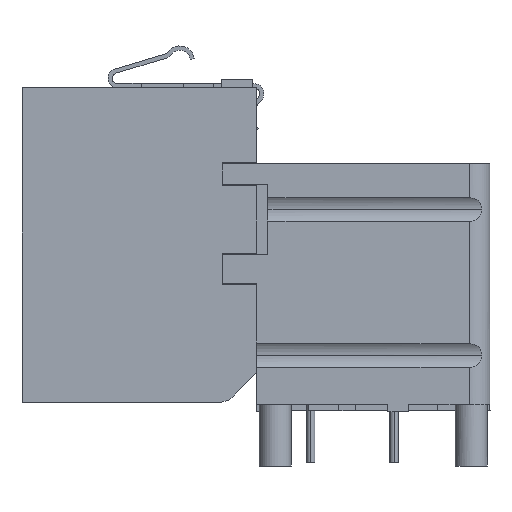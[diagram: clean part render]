
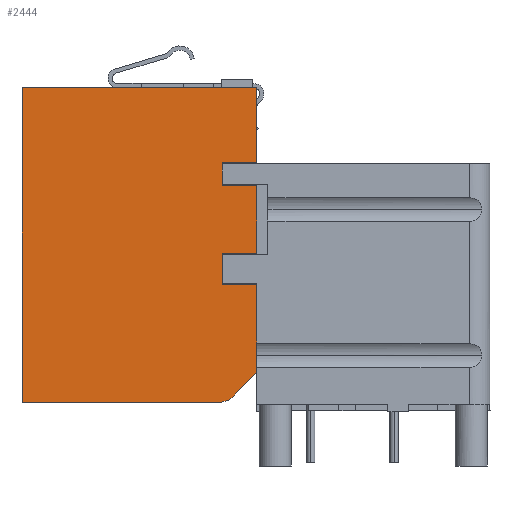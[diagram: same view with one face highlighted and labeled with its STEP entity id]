
A CAD part, front view. The second image highlights one B-rep face of the part: STEP entity #2444.
In plain terms, the highlighted planar face has unit normal (0, -1, 0).
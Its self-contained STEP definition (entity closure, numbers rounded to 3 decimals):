
#2344=AXIS2_PLACEMENT_3D('Plane Axis2P3D',#2341,#2342,#2343) ;
#2383=AXIS2_PLACEMENT_3D('Circle Axis2P3D',#2381,#2382,$) ;
#1366=CARTESIAN_POINT('Vertex',(-9.,-4.,-8.)) ;
#1369=CARTESIAN_POINT('Line Origine',(-9.,-4.,-0.45)) ;
#1373=CARTESIAN_POINT('Vertex',(-9.,-4.,7.1)) ;
#2252=CARTESIAN_POINT('Line Origine',(-3.375,-4.,7.1)) ;
#2256=CARTESIAN_POINT('Vertex',(2.25,-4.,7.1)) ;
#2341=CARTESIAN_POINT('Axis2P3D Location',(0.,-4.,7.1)) ;
#2346=CARTESIAN_POINT('Line Origine',(1.425,-4.,2.4)) ;
#2350=CARTESIAN_POINT('Vertex',(0.6,-4.,2.4)) ;
#2352=CARTESIAN_POINT('Vertex',(2.25,-4.,2.4)) ;
#2355=CARTESIAN_POINT('Line Origine',(0.6,-4.,2.95)) ;
#2359=CARTESIAN_POINT('Vertex',(0.6,-4.,3.5)) ;
#2362=CARTESIAN_POINT('Line Origine',(1.425,-4.,3.5)) ;
#2366=CARTESIAN_POINT('Vertex',(2.25,-4.,3.5)) ;
#2369=CARTESIAN_POINT('Line Origine',(2.25,-4.,5.3)) ;
#2374=CARTESIAN_POINT('Line Origine',(-4.287,-4.,-8.)) ;
#2378=CARTESIAN_POINT('Vertex',(0.425,-4.,-8.)) ;
#2381=CARTESIAN_POINT('Axis2P3D Location',(0.425,-4.,-7.)) ;
#2385=CARTESIAN_POINT('Vertex',(1.145,-4.,-7.694)) ;
#2388=CARTESIAN_POINT('Line Origine',(1.697,-4.,-7.122)) ;
#2392=CARTESIAN_POINT('Vertex',(2.25,-4.,-6.55)) ;
#2395=CARTESIAN_POINT('Line Origine',(2.25,-4.,-4.45)) ;
#2399=CARTESIAN_POINT('Vertex',(2.25,-4.,-2.35)) ;
#2402=CARTESIAN_POINT('Line Origine',(1.425,-4.,-2.35)) ;
#2406=CARTESIAN_POINT('Vertex',(0.6,-4.,-2.35)) ;
#2409=CARTESIAN_POINT('Line Origine',(0.6,-4.,-1.6)) ;
#2413=CARTESIAN_POINT('Vertex',(0.6,-4.,-0.85)) ;
#2416=CARTESIAN_POINT('Line Origine',(1.425,-4.,-0.85)) ;
#2420=CARTESIAN_POINT('Vertex',(2.25,-4.,-0.85)) ;
#2423=CARTESIAN_POINT('Line Origine',(2.25,-4.,0.775)) ;
#1370=DIRECTION('Vector Direction',(0.,0.,1.)) ;
#2253=DIRECTION('Vector Direction',(-1.,0.,0.)) ;
#2342=DIRECTION('Axis2P3D Direction',(0.,-1.,0.)) ;
#2343=DIRECTION('Axis2P3D XDirection',(0.,0.,-1.)) ;
#2347=DIRECTION('Vector Direction',(1.,0.,0.)) ;
#2356=DIRECTION('Vector Direction',(0.,0.,-1.)) ;
#2363=DIRECTION('Vector Direction',(-1.,0.,0.)) ;
#2370=DIRECTION('Vector Direction',(0.,0.,1.)) ;
#2375=DIRECTION('Vector Direction',(1.,0.,0.)) ;
#2382=DIRECTION('Axis2P3D Direction',(0.,-1.,0.)) ;
#2389=DIRECTION('Vector Direction',(-0.695,0.,-0.719)) ;
#2396=DIRECTION('Vector Direction',(0.,0.,1.)) ;
#2403=DIRECTION('Vector Direction',(-1.,0.,0.)) ;
#2410=DIRECTION('Vector Direction',(0.,0.,-1.)) ;
#2417=DIRECTION('Vector Direction',(1.,0.,0.)) ;
#2424=DIRECTION('Vector Direction',(0.,0.,1.)) ;
#1371=VECTOR('Line Direction',#1370,1.) ;
#2254=VECTOR('Line Direction',#2253,1.) ;
#2348=VECTOR('Line Direction',#2347,1.) ;
#2357=VECTOR('Line Direction',#2356,1.) ;
#2364=VECTOR('Line Direction',#2363,1.) ;
#2371=VECTOR('Line Direction',#2370,1.) ;
#2376=VECTOR('Line Direction',#2375,1.) ;
#2390=VECTOR('Line Direction',#2389,1.) ;
#2397=VECTOR('Line Direction',#2396,1.) ;
#2404=VECTOR('Line Direction',#2403,1.) ;
#2411=VECTOR('Line Direction',#2410,1.) ;
#2418=VECTOR('Line Direction',#2417,1.) ;
#2425=VECTOR('Line Direction',#2424,1.) ;
#2429=ORIENTED_EDGE('',*,*,#2354,.F.) ;
#2430=ORIENTED_EDGE('',*,*,#2361,.F.) ;
#2431=ORIENTED_EDGE('',*,*,#2368,.F.) ;
#2432=ORIENTED_EDGE('',*,*,#2373,.T.) ;
#2433=ORIENTED_EDGE('',*,*,#2258,.T.) ;
#2434=ORIENTED_EDGE('',*,*,#1375,.F.) ;
#2435=ORIENTED_EDGE('',*,*,#2380,.T.) ;
#2436=ORIENTED_EDGE('',*,*,#2387,.T.) ;
#2437=ORIENTED_EDGE('',*,*,#2394,.F.) ;
#2438=ORIENTED_EDGE('',*,*,#2401,.T.) ;
#2439=ORIENTED_EDGE('',*,*,#2408,.T.) ;
#2440=ORIENTED_EDGE('',*,*,#2415,.F.) ;
#2441=ORIENTED_EDGE('',*,*,#2422,.T.) ;
#2442=ORIENTED_EDGE('',*,*,#2427,.T.) ;
#2444=ADVANCED_FACE('KEY_C',(#2443),#2345,.T.) ;
#2384=CIRCLE('generated circle',#2383,1.) ;
#1375=EDGE_CURVE('',#1367,#1374,#1372,.T.) ;
#2258=EDGE_CURVE('',#2257,#1374,#2255,.T.) ;
#2354=EDGE_CURVE('',#2351,#2353,#2349,.T.) ;
#2361=EDGE_CURVE('',#2360,#2351,#2358,.T.) ;
#2368=EDGE_CURVE('',#2367,#2360,#2365,.T.) ;
#2373=EDGE_CURVE('',#2367,#2257,#2372,.T.) ;
#2380=EDGE_CURVE('',#1367,#2379,#2377,.T.) ;
#2387=EDGE_CURVE('',#2379,#2386,#2384,.T.) ;
#2394=EDGE_CURVE('',#2393,#2386,#2391,.T.) ;
#2401=EDGE_CURVE('',#2393,#2400,#2398,.T.) ;
#2408=EDGE_CURVE('',#2400,#2407,#2405,.T.) ;
#2415=EDGE_CURVE('',#2414,#2407,#2412,.T.) ;
#2422=EDGE_CURVE('',#2414,#2421,#2419,.T.) ;
#2427=EDGE_CURVE('',#2421,#2353,#2426,.T.) ;
#2428=EDGE_LOOP('',(#2429,#2430,#2431,#2432,#2433,#2434,#2435,#2436,#2437,#2438,#2439,#2440,#2441,#2442)) ;
#2443=FACE_OUTER_BOUND('',#2428,.T.) ;
#1372=LINE('Line',#1369,#1371) ;
#2255=LINE('Line',#2252,#2254) ;
#2349=LINE('Line',#2346,#2348) ;
#2358=LINE('Line',#2355,#2357) ;
#2365=LINE('Line',#2362,#2364) ;
#2372=LINE('Line',#2369,#2371) ;
#2377=LINE('Line',#2374,#2376) ;
#2391=LINE('Line',#2388,#2390) ;
#2398=LINE('Line',#2395,#2397) ;
#2405=LINE('Line',#2402,#2404) ;
#2412=LINE('Line',#2409,#2411) ;
#2419=LINE('Line',#2416,#2418) ;
#2426=LINE('Line',#2423,#2425) ;
#2345=PLANE('',#2344) ;
#1367=VERTEX_POINT('',#1366) ;
#1374=VERTEX_POINT('',#1373) ;
#2257=VERTEX_POINT('',#2256) ;
#2351=VERTEX_POINT('',#2350) ;
#2353=VERTEX_POINT('',#2352) ;
#2360=VERTEX_POINT('',#2359) ;
#2367=VERTEX_POINT('',#2366) ;
#2379=VERTEX_POINT('',#2378) ;
#2386=VERTEX_POINT('',#2385) ;
#2393=VERTEX_POINT('',#2392) ;
#2400=VERTEX_POINT('',#2399) ;
#2407=VERTEX_POINT('',#2406) ;
#2414=VERTEX_POINT('',#2413) ;
#2421=VERTEX_POINT('',#2420) ;
